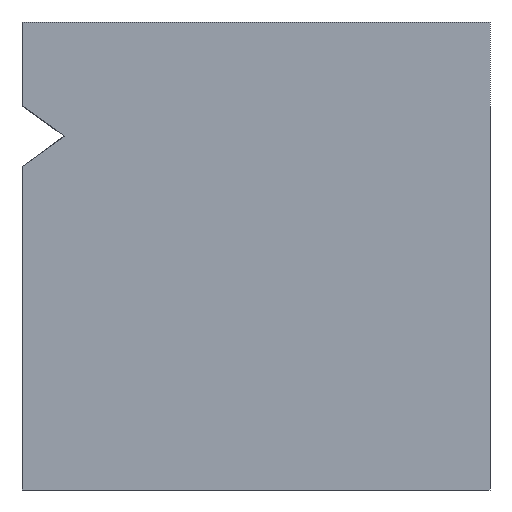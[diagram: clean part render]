
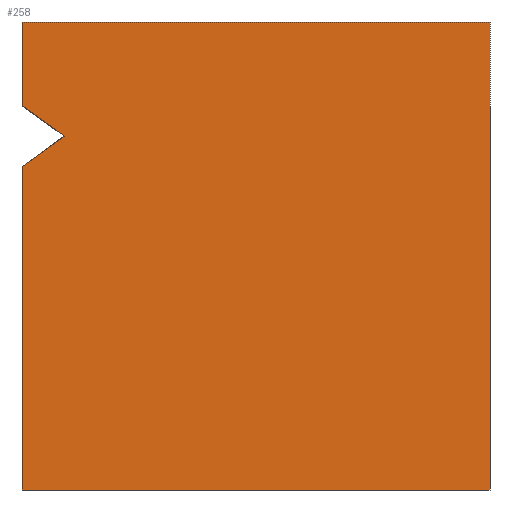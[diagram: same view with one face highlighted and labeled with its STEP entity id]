
A CAD part, left-side view. The second image highlights one B-rep face of the part: STEP entity #258.
In plain terms, the highlighted planar face has unit normal (-1, 0, 0).
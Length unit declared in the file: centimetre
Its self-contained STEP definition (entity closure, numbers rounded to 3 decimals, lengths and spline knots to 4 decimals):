
#16 = ORIENTED_EDGE ( 'NONE', *, *, #135, .T. ) ;
#21 = DIRECTION ( 'NONE',  ( 0., 0., -1. ) ) ;
#32 = CARTESIAN_POINT ( 'NONE',  ( 0., 1000., 1000. ) ) ;
#39 = CARTESIAN_POINT ( 'NONE',  ( 0., 0., 0. ) ) ;
#52 = EDGE_CURVE ( 'NONE', #416, #603, #505, .T. ) ;
#81 = VERTEX_POINT ( 'NONE', #533 ) ;
#85 = CARTESIAN_POINT ( 'NONE',  ( 0., 1000., 0. ) ) ;
#93 = ORIENTED_EDGE ( 'NONE', *, *, #573, .F. ) ;
#99 = LINE ( 'NONE', #243, #618 ) ;
#100 = CARTESIAN_POINT ( 'NONE',  ( 0., 1000., 821.1116 ) ) ;
#101 = VECTOR ( 'NONE', #21, 100. ) ;
#104 = DIRECTION ( 'NONE',  ( 0., 0., -1. ) ) ;
#119 = EDGE_CURVE ( 'NONE', #81, #316, #99, .T. ) ;
#120 = LINE ( 'NONE', #331, #599 ) ;
#132 = EDGE_CURVE ( 'NONE', #316, #603, #479, .T. ) ;
#135 = EDGE_CURVE ( 'NONE', #293, #155, #294, .T. ) ;
#138 = DIRECTION ( 'NONE',  ( 0., -0.81, 0.586 ) ) ;
#154 = VECTOR ( 'NONE', #104, 100. ) ;
#155 = VERTEX_POINT ( 'NONE', #39 ) ;
#174 = CARTESIAN_POINT ( 'NONE',  ( 0., 1000., 0. ) ) ;
#176 = CARTESIAN_POINT ( 'NONE',  ( 0., 910.0777, 756.1216 ) ) ;
#203 = EDGE_CURVE ( 'NONE', #81, #293, #434, .T. ) ;
#204 = ORIENTED_EDGE ( 'NONE', *, *, #52, .T. ) ;
#220 = DIRECTION ( 'NONE',  ( 1., 0., 0. ) ) ;
#228 = VERTEX_POINT ( 'NONE', #321 ) ;
#232 = VECTOR ( 'NONE', #290, 100. ) ;
#243 = CARTESIAN_POINT ( 'NONE',  ( 0., 1000., 691.1317 ) ) ;
#258 = ADVANCED_FACE ( 'NONE', ( #271 ), #608, .F. ) ;
#271 = FACE_OUTER_BOUND ( 'NONE', #429, .T. ) ;
#286 = DIRECTION ( 'NONE',  ( 0., -1., 0. ) ) ;
#290 = DIRECTION ( 'NONE',  ( 0., 0.81, 0.586 ) ) ;
#293 = VERTEX_POINT ( 'NONE', #174 ) ;
#294 = LINE ( 'NONE', #85, #369 ) ;
#300 = AXIS2_PLACEMENT_3D ( 'NONE', #32, #220, #465 ) ;
#316 = VERTEX_POINT ( 'NONE', #176 ) ;
#321 = CARTESIAN_POINT ( 'NONE',  ( 0., 0., 1000. ) ) ;
#331 = CARTESIAN_POINT ( 'NONE',  ( 0., 1000., 1000. ) ) ;
#337 = VECTOR ( 'NONE', #401, 100. ) ;
#362 = EDGE_CURVE ( 'NONE', #416, #228, #120, .T. ) ;
#367 = ORIENTED_EDGE ( 'NONE', *, *, #132, .F. ) ;
#369 = VECTOR ( 'NONE', #286, 100. ) ;
#401 = DIRECTION ( 'NONE',  ( 0., 0., -1. ) ) ;
#416 = VERTEX_POINT ( 'NONE', #435 ) ;
#429 = EDGE_LOOP ( 'NONE', ( #204, #367, #501, #439, #16, #93, #535 ) ) ;
#434 = LINE ( 'NONE', #445, #337 ) ;
#435 = CARTESIAN_POINT ( 'NONE',  ( 0., 1000., 1000. ) ) ;
#439 = ORIENTED_EDGE ( 'NONE', *, *, #203, .T. ) ;
#445 = CARTESIAN_POINT ( 'NONE',  ( 0., 1000., 1000. ) ) ;
#465 = DIRECTION ( 'NONE',  ( 0., 0., -1. ) ) ;
#479 = LINE ( 'NONE', #576, #232 ) ;
#501 = ORIENTED_EDGE ( 'NONE', *, *, #119, .F. ) ;
#505 = LINE ( 'NONE', #607, #101 ) ;
#525 = DIRECTION ( 'NONE',  ( 0., -1., 0. ) ) ;
#533 = CARTESIAN_POINT ( 'NONE',  ( 0., 1000., 691.1317 ) ) ;
#535 = ORIENTED_EDGE ( 'NONE', *, *, #362, .F. ) ;
#573 = EDGE_CURVE ( 'NONE', #228, #155, #589, .T. ) ;
#576 = CARTESIAN_POINT ( 'NONE',  ( 0., 910.0777, 756.1216 ) ) ;
#589 = LINE ( 'NONE', #594, #154 ) ;
#594 = CARTESIAN_POINT ( 'NONE',  ( 0., 0., 1000. ) ) ;
#599 = VECTOR ( 'NONE', #525, 100. ) ;
#603 = VERTEX_POINT ( 'NONE', #100 ) ;
#607 = CARTESIAN_POINT ( 'NONE',  ( 0., 1000., 1000. ) ) ;
#608 = PLANE ( 'NONE',  #300 ) ;
#618 = VECTOR ( 'NONE', #138, 100. ) ;
